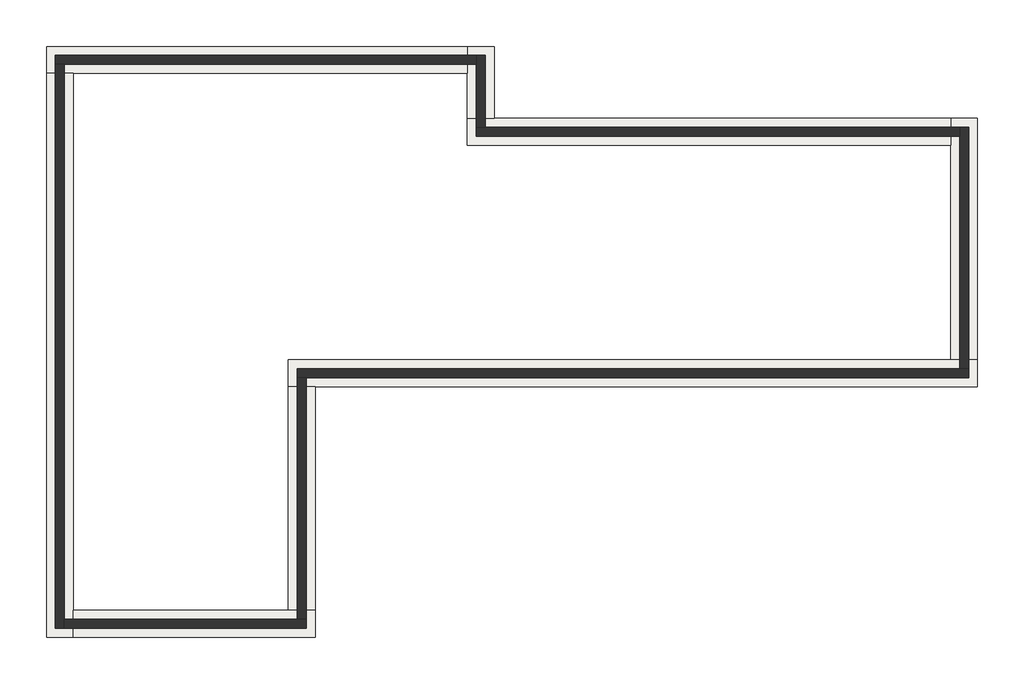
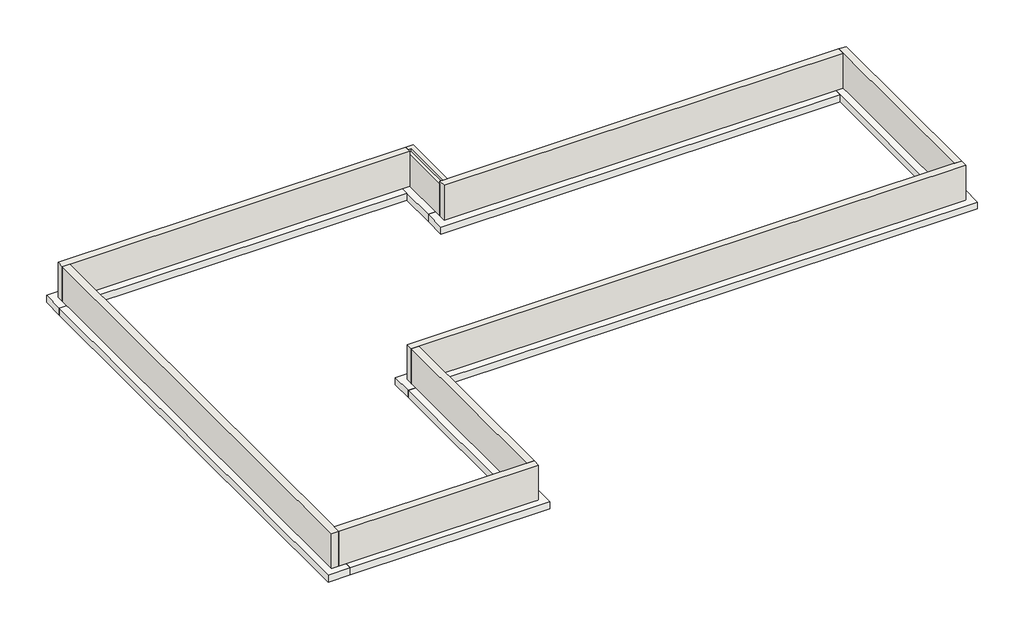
# One storey: 8 footings, 8 walls.
"""IFC4 building model written with IfcOpenShell, lengths in millimetres."""

from ifc_helpers import new_model, si_unit, frame, origin, place, context, project, spatial, polyline, outline, extrude, faceted_brep, element, save

model = new_model("IFC4")

# Units and contexts
model_context = context("Model", 3, world=origin())
ifc_project = project(units=[si_unit("LENGTHUNIT", "METRE", prefix="MILLI")], contexts=[model_context])

# Site, building, storey
site = spatial("IfcSite", under=ifc_project)
building = spatial("IfcBuilding", under=site)
storey = spatial("IfcBuildingStorey", under=building, Name="T.O. Footing", Elevation=-1524.0)

# Footings
placement = place(None, origin())
element("IfcFooting", 1, ObjectType="Bearing Footing - 36\" x 12\"", at=placement, inside=storey, context=model_context, shape_type="Brep", body=[
    faceted_brep([(17458.2733448, 557.9855424, -1524.0), (16543.8733448, 557.9855424, -1524.0), (-6011.3266552, 557.9855424, -1524.0), (-6011.3266552, -356.4144576, -1524.0), (-5096.9266552, -356.4144576, -1524.0), (17458.2733448, -356.4144576, -1524.0), (17458.2733448, -356.4144576, -1828.8), (-6011.3266552, -356.4144576, -1828.8), (-5096.9266552, -356.4144576, -1828.8), (17458.2733448, 557.9855424, -1828.8), (-6011.3266552, 557.9855424, -1828.8), (16543.8733448, 557.9855424, -1828.8)], [[[0, 1, 2, 3, 4, 5]], [[6, 5, 4, 3, 7, 8]], [[9, 6, 8, 7, 10, 11]], [[0, 9, 11, 10, 2, 1]], [[0, 5, 6, 9]], [[3, 2, 10, 7]]]),
])
element("IfcFooting", 2, ObjectType="Bearing Footing - 36\" x 12\"", at=placement, inside=storey, context=model_context, shape_type="Brep", body=[
    faceted_brep([(17458.2733448, 8787.5855424, -1524.0), (16543.8733448, 8787.5855424, -1524.0), (16543.8733448, 7873.1855424, -1524.0), (16543.8733448, 557.9855424, -1524.0), (17458.2733448, 557.9855424, -1524.0), (17458.2733448, 8787.5855424, -1828.8), (17458.2733448, 557.9855424, -1828.8), (16543.8733448, 8787.5855424, -1828.8), (16543.8733448, 557.9855424, -1828.8), (16543.8733448, 7873.1855424, -1828.8)], [[[0, 1, 2, 3, 4]], [[5, 0, 4, 6]], [[7, 5, 6, 8, 9]], [[1, 7, 9, 8, 3, 2]], [[1, 0, 5, 7]], [[4, 3, 8, 6]]]),
])
element("IfcFooting", 3, ObjectType="Bearing Footing - 36\" x 12\"", at=placement, inside=storey, context=model_context, shape_type="Brep", body=[
    faceted_brep([(84.6733448, 8787.5855424, -1524.0), (84.6733448, 7873.1855424, -1524.0), (16543.8733448, 7873.1855424, -1524.0), (16543.8733448, 8787.5855424, -1524.0), (999.0733448, 8787.5855424, -1524.0), (84.6733448, 8787.5855424, -1828.8), (16543.8733448, 8787.5855424, -1828.8), (999.0733448, 8787.5855424, -1828.8), (84.6733448, 7873.1855424, -1828.8), (16543.8733448, 7873.1855424, -1828.8)], [[[0, 1, 2, 3, 4]], [[5, 0, 4, 3, 6, 7]], [[8, 5, 7, 6, 9]], [[1, 8, 9, 2]], [[1, 0, 5, 8]], [[3, 2, 9, 6]]]),
])
element("IfcFooting", 4, ObjectType="Bearing Footing - 36\" x 12\"", at=placement, inside=storey, context=model_context, shape_type="Brep", body=[
    faceted_brep([(999.0733448, 11225.9855424, -1524.0), (84.6733448, 11225.9855424, -1524.0), (84.6733448, 10311.5855424, -1524.0), (84.6733448, 8787.5855424, -1524.0), (999.0733448, 8787.5855424, -1524.0), (999.0733448, 11225.9855424, -1828.8), (999.0733448, 8787.5855424, -1828.8), (84.6733448, 11225.9855424, -1828.8), (84.6733448, 8787.5855424, -1828.8), (84.6733448, 10311.5855424, -1828.8)], [[[0, 1, 2, 3, 4]], [[5, 0, 4, 6]], [[7, 5, 6, 8, 9]], [[1, 7, 9, 8, 3, 2]], [[1, 0, 5, 7]], [[4, 3, 8, 6]]]),
])
element("IfcFooting", 5, ObjectType="Bearing Footing - 36\" x 12\"", at=placement, inside=storey, context=model_context, shape_type="Brep", body=[
    faceted_brep([(-14240.9266552, 11225.9855424, -1524.0), (-14240.9266552, 10311.5855424, -1524.0), (-13326.5266552, 10311.5855424, -1524.0), (84.6733448, 10311.5855424, -1524.0), (84.6733448, 11225.9855424, -1524.0), (-14240.9266552, 11225.9855424, -1828.8), (84.6733448, 11225.9855424, -1828.8), (-14240.9266552, 10311.5855424, -1828.8), (84.6733448, 10311.5855424, -1828.8), (-13326.5266552, 10311.5855424, -1828.8)], [[[0, 1, 2, 3, 4]], [[5, 0, 4, 6]], [[7, 5, 6, 8, 9]], [[1, 7, 9, 8, 3, 2]], [[1, 0, 5, 7]], [[4, 3, 8, 6]]]),
])
element("IfcFooting", 6, ObjectType="Bearing Footing - 36\" x 12\"", at=placement, inside=storey, context=model_context, shape_type="Brep", body=[
    faceted_brep([(-14240.9266552, -8890.8144576, -1524.0), (-13326.5266552, -8890.8144576, -1524.0), (-13326.5266552, -7976.4144576, -1524.0), (-13326.5266552, 10311.5855424, -1524.0), (-14240.9266552, 10311.5855424, -1524.0), (-14240.9266552, -8890.8144576, -1828.8), (-14240.9266552, 10311.5855424, -1828.8), (-13326.5266552, -8890.8144576, -1828.8), (-13326.5266552, 10311.5855424, -1828.8), (-13326.5266552, -7976.4144576, -1828.8)], [[[0, 1, 2, 3, 4]], [[5, 0, 4, 6]], [[7, 5, 6, 8, 9]], [[1, 7, 9, 8, 3, 2]], [[1, 0, 5, 7]], [[4, 3, 8, 6]]]),
])
element("IfcFooting", 7, ObjectType="Bearing Footing - 36\" x 12\"", at=placement, inside=storey, context=model_context, shape_type="Brep", body=[
    faceted_brep([(-5096.9266552, -8890.8144576, -1524.0), (-5096.9266552, -7976.4144576, -1524.0), (-6011.3266552, -7976.4144576, -1524.0), (-13326.5266552, -7976.4144576, -1524.0), (-13326.5266552, -8890.8144576, -1524.0), (-5096.9266552, -8890.8144576, -1828.8), (-13326.5266552, -8890.8144576, -1828.8), (-5096.9266552, -7976.4144576, -1828.8), (-13326.5266552, -7976.4144576, -1828.8), (-6011.3266552, -7976.4144576, -1828.8)], [[[0, 1, 2, 3, 4]], [[5, 0, 4, 6]], [[7, 5, 6, 8, 9]], [[1, 7, 9, 8, 3, 2]], [[1, 0, 5, 7]], [[4, 3, 8, 6]]]),
])
element("IfcFooting", 8, ObjectType="Bearing Footing - 36\" x 12\"", at=placement, inside=storey, context=model_context, shape_type="SweptSolid", body=[
    extrude(outline(polyline([(-6011.3266552, -356.4144576), (-5096.9266552, -356.4144576), (-5096.9266552, -7976.4144576), (-6011.3266552, -7976.4144576), (-6011.3266552, -356.4144576)])), frame((0.0, 0.0, -1828.8), z_axis=(0.0, 0.0, 1.0), x_axis=(1.0, 0.0, 0.0)), (0.0, 0.0, 1.0), 304.8),
])

# Walls
element("IfcWall", 9, ObjectType="Foundation - 12\" Concrete", at=placement, inside=storey, context=model_context, shape_type="Brep", body=[
    faceted_brep([(17153.4733448, 253.1855424, -1524.0), (16848.6733448, 253.1855424, -1524.0), (-5706.5266552, 253.1855424, -1524.0), (-5706.5266552, 253.1855424, 0.0), (16848.6733448, 253.1855424, 0.0), (17153.4733448, 253.1855424, 0.0), (17153.4733448, -51.6144576, -1524.0), (17153.4733448, -51.6144576, 0.0), (-5401.7266552, -51.6144576, 0.0), (-5706.5266552, -51.6144576, 0.0), (-5706.5266552, -51.6144576, -1524.0), (-5401.7266552, -51.6144576, -1524.0)], [[[0, 1, 2, 3, 4, 5]], [[6, 7, 8, 9, 10, 11]], [[2, 1, 0, 6, 11, 10]], [[5, 4, 3, 9, 8, 7]], [[0, 5, 7, 6]], [[3, 2, 10, 9]]]),
])
element("IfcWall", 10, ObjectType="Foundation - 12\" Concrete", at=placement, inside=storey, context=model_context, shape_type="Brep", body=[
    faceted_brep([(16848.6733448, 8482.7855424, -1524.0), (16848.6733448, 8177.9855424, -1524.0), (16848.6733448, 253.1855424, -1524.0), (16848.6733448, 253.1855424, 0.0), (16848.6733448, 8177.9855424, 0.0), (16848.6733448, 8482.7855424, 0.0), (17153.4733448, 8482.7855424, -1524.0), (17153.4733448, 8482.7855424, 0.0), (17153.4733448, 253.1855424, 0.0), (17153.4733448, 253.1855424, -1524.0)], [[[0, 1, 2, 3, 4, 5]], [[6, 7, 8, 9]], [[2, 1, 0, 6, 9]], [[5, 4, 3, 8, 7]], [[3, 2, 9, 8]], [[0, 5, 7, 6]]]),
])
element("IfcWall", 11, ObjectType="Foundation - 12\" Concrete", at=placement, inside=storey, context=model_context, shape_type="Brep", body=[
    faceted_brep([(389.4733448, 8177.9855424, -1524.0), (16848.6733448, 8177.9855424, -1524.0), (16848.6733448, 8177.9855424, 0.0), (389.4733448, 8177.9855424, 0.0), (389.4733448, 8482.7855424, -1524.0), (389.4733448, 8482.7855424, 0.0), (694.2733448, 8482.7855424, 0.0), (16848.6733448, 8482.7855424, 0.0), (16848.6733448, 8482.7855424, -1524.0), (694.2733448, 8482.7855424, -1524.0)], [[[0, 1, 2, 3]], [[4, 5, 6, 7, 8, 9]], [[1, 0, 4, 9, 8]], [[3, 2, 7, 6, 5]], [[2, 1, 8, 7]], [[0, 3, 5, 4]]]),
])
element("IfcWall", 12, ObjectType="Foundation - 12\" Concrete", at=placement, inside=storey, context=model_context, shape_type="Brep", body=[
    faceted_brep([(389.4733448, 10921.1855424, -1524.0), (389.4733448, 10616.3855424, -1524.0), (389.4733448, 8482.7855424, -1524.0), (389.4733448, 8482.7855424, -101.6), (389.4733448, 10733.8605424, -101.6), (389.4733448, 10733.8605424, 0.0), (389.4733448, 10921.1855424, 0.0), (694.2733448, 8482.7855424, -1524.0), (694.2733448, 10921.1855424, -1524.0), (694.2733448, 10921.1855424, 0.0), (694.2733448, 8482.7855424, 0.0), (506.9483448, 10733.8605424, 0.0), (506.9483448, 8482.7855424, 0.0), (506.9483448, 8482.7855424, -101.6), (506.9483448, 10733.8605424, -101.6)], [[[0, 1, 2, 3, 4, 5, 6]], [[7, 8, 9, 10]], [[2, 1, 0, 8, 7]], [[10, 9, 6, 5, 11, 12]], [[2, 7, 10, 12, 13, 3]], [[0, 6, 9, 8]], [[14, 4, 3, 13]], [[11, 14, 13, 12]], [[14, 11, 5, 4]]]),
])
element("IfcWall", 13, ObjectType="Foundation - 12\" Concrete", at=placement, inside=storey, context=model_context, shape_type="Brep", body=[
    faceted_brep([(-13936.1266552, 10616.3855424, -1524.0), (-13631.3266552, 10616.3855424, -1524.0), (389.4733448, 10616.3855424, -1524.0), (389.4733448, 10616.3855424, 0.0), (-13631.3266552, 10616.3855424, 0.0), (-13936.1266552, 10616.3855424, 0.0), (-13936.1266552, 10921.1855424, -1524.0), (-13936.1266552, 10921.1855424, 0.0), (389.4733448, 10921.1855424, 0.0), (389.4733448, 10921.1855424, -1524.0)], [[[0, 1, 2, 3, 4, 5]], [[6, 7, 8, 9]], [[2, 1, 0, 6, 9]], [[5, 4, 3, 8, 7]], [[3, 2, 9, 8]], [[0, 5, 7, 6]]]),
])
element("IfcWall", 14, ObjectType="Foundation - 12\" Concrete", at=placement, inside=storey, context=model_context, shape_type="Brep", body=[
    faceted_brep([(-13631.3266552, -8586.0144576, -1524.0), (-13631.3266552, -8281.2144576, -1524.0), (-13631.3266552, 10616.3855424, -1524.0), (-13631.3266552, 10616.3855424, 0.0), (-13631.3266552, -8281.2144576, 0.0), (-13631.3266552, -8586.0144576, 0.0), (-13936.1266552, -8586.0144576, -1524.0), (-13936.1266552, -8586.0144576, 0.0), (-13936.1266552, 10616.3855424, 0.0), (-13936.1266552, 10616.3855424, -1524.0)], [[[0, 1, 2, 3, 4, 5]], [[6, 7, 8, 9]], [[2, 1, 0, 6, 9]], [[5, 4, 3, 8, 7]], [[3, 2, 9, 8]], [[0, 5, 7, 6]]]),
])
element("IfcWall", 15, ObjectType="Foundation - 12\" Concrete", at=placement, inside=storey, context=model_context, shape_type="Brep", body=[
    faceted_brep([(-5401.7266552, -8281.2144576, -1524.0), (-5706.5266552, -8281.2144576, -1524.0), (-13631.3266552, -8281.2144576, -1524.0), (-13631.3266552, -8281.2144576, 0.0), (-5706.5266552, -8281.2144576, 0.0), (-5401.7266552, -8281.2144576, 0.0), (-5401.7266552, -8586.0144576, -1524.0), (-5401.7266552, -8586.0144576, 0.0), (-13631.3266552, -8586.0144576, 0.0), (-13631.3266552, -8586.0144576, -1524.0)], [[[0, 1, 2, 3, 4, 5]], [[6, 7, 8, 9]], [[2, 1, 0, 6, 9]], [[5, 4, 3, 8, 7]], [[3, 2, 9, 8]], [[0, 5, 7, 6]]]),
])
element("IfcWall", 16, ObjectType="Foundation - 12\" Concrete", at=placement, inside=storey, context=model_context, shape_type="SweptSolid", body=[
    extrude(outline(polyline([(-5706.5266552, -8281.2144576), (-5706.5266552, -51.6144576), (-5401.7266552, -51.6144576), (-5401.7266552, -8281.2144576), (-5706.5266552, -8281.2144576)])), frame((0.0, 0.0, -1524.0), z_axis=(0.0, 0.0, 1.0), x_axis=(1.0, 0.0, 0.0)), (0.0, 0.0, 1.0), 1524.0),
])

save(model, "model.ifc")
